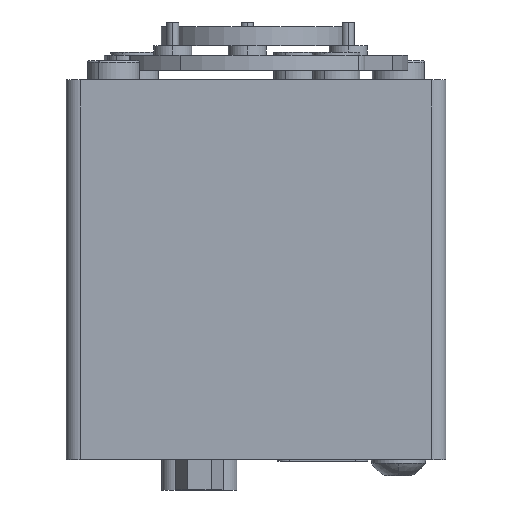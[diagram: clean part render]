
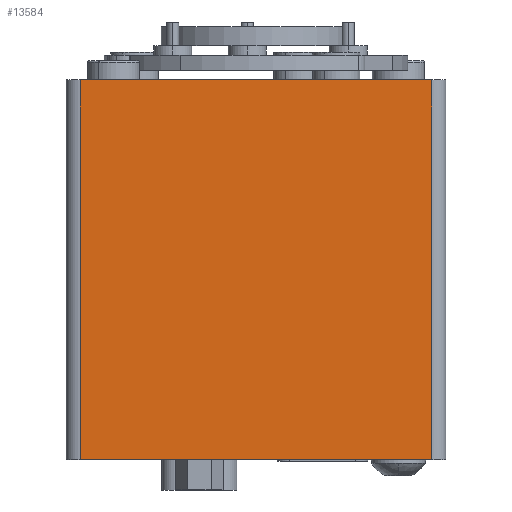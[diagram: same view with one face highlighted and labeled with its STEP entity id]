
A CAD part, front view. The second image highlights one B-rep face of the part: STEP entity #13584.
In plain terms, the highlighted planar face has unit normal (0, -1, 0).
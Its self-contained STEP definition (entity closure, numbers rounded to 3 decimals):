
#1827 = CARTESIAN_POINT ( 'NONE',  ( 18.499, -19.999, -37.4 ) ) ;
#1890 = CARTESIAN_POINT ( 'NONE',  ( -18.501, -19.999, -37.4 ) ) ;
#3878 = PLANE ( 'NONE',  #11045 ) ;
#3898 = FACE_OUTER_BOUND ( 'NONE', #4701, .T. ) ;
#3908 = CARTESIAN_POINT ( 'NONE',  ( -0.001, -19.999, -37.4 ) ) ;
#3909 = DIRECTION ( 'NONE',  ( 0., 1., 0. ) ) ;
#3910 = DIRECTION ( 'NONE',  ( 0., 0., -1. ) ) ;
#4245 = LINE ( 'NONE', #4246, #10807 ) ;
#4246 = CARTESIAN_POINT ( 'NONE',  ( -0.001, -19.999, -37.4 ) ) ;
#4253 = DIRECTION ( 'NONE',  ( -1., 0., 0. ) ) ;
#4357 = LINE ( 'NONE', #4371, #11317 ) ;
#4371 = CARTESIAN_POINT ( 'NONE',  ( -18.501, -19.999, -37.4 ) ) ;
#4372 = DIRECTION ( 'NONE',  ( 0., 0., 1. ) ) ;
#4488 = LINE ( 'NONE', #4489, #10978 ) ;
#4489 = CARTESIAN_POINT ( 'NONE',  ( 18.499, -19.999, -37.4 ) ) ;
#4490 = DIRECTION ( 'NONE',  ( 0., 0., 1. ) ) ;
#4701 = EDGE_LOOP ( 'NONE', ( #5167, #5205, #4868, #4871 ) ) ;
#4868 = ORIENTED_EDGE ( 'NONE', *, *, #13676, .F. ) ;
#4871 = ORIENTED_EDGE ( 'NONE', *, *, #13637, .F. ) ;
#4991 = VERTEX_POINT ( 'NONE', #9148 ) ;
#5167 = ORIENTED_EDGE ( 'NONE', *, *, #13716, .T. ) ;
#5202 = VERTEX_POINT ( 'NONE', #9450 ) ;
#5205 = ORIENTED_EDGE ( 'NONE', *, *, #10031, .T. ) ;
#5438 = VERTEX_POINT ( 'NONE', #1827 ) ;
#5442 = VERTEX_POINT ( 'NONE', #1890 ) ;
#9148 = CARTESIAN_POINT ( 'NONE',  ( 18.499, -19.999, 2.6 ) ) ;
#9450 = CARTESIAN_POINT ( 'NONE',  ( -18.501, -19.999, 2.6 ) ) ;
#10031 = EDGE_CURVE ( 'NONE', #4991, #5202, #12693, .T. ) ;
#10807 = VECTOR ( 'NONE', #4253, 1000. ) ;
#10978 = VECTOR ( 'NONE', #4490, 1000. ) ;
#11045 = AXIS2_PLACEMENT_3D ( 'NONE', #3908, #3909, #3910 ) ;
#11317 = VECTOR ( 'NONE', #4372, 1000. ) ;
#12215 = VECTOR ( 'NONE', #12664, 1000. ) ;
#12664 = DIRECTION ( 'NONE',  ( -1., 0., 0. ) ) ;
#12693 = LINE ( 'NONE', #12717, #12215 ) ;
#12717 = CARTESIAN_POINT ( 'NONE',  ( -0.001, -19.999, 2.6 ) ) ;
#13584 = ADVANCED_FACE ( 'NONE', ( #3898 ), #3878, .F. ) ;
#13637 = EDGE_CURVE ( 'NONE', #5438, #5442, #4245, .T. ) ;
#13676 = EDGE_CURVE ( 'NONE', #5442, #5202, #4357, .T. ) ;
#13716 = EDGE_CURVE ( 'NONE', #5438, #4991, #4488, .T. ) ;
